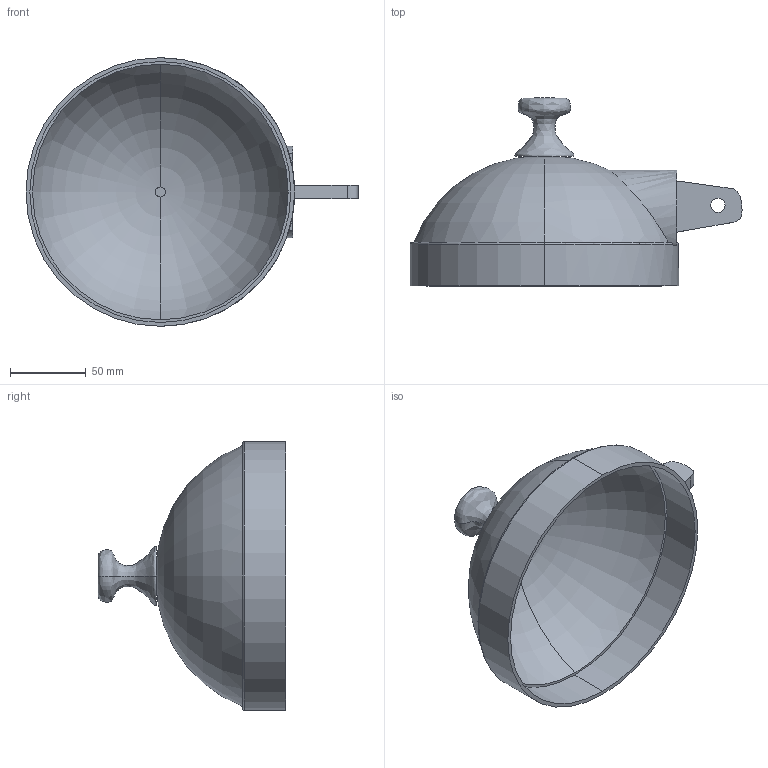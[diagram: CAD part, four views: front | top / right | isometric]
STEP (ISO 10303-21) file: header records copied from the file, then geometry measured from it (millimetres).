
FILE_DESCRIPTION (( 'STEP AP214' ), '1' );
FILE_NAME ('DL-APB-100W-12v.STEP', '2019-06-20T21:30:52', ( '' ), ( '' ), 'SwSTEP 2.0', 'SolidWorks 2016', '' );
FILE_SCHEMA (( 'AUTOMOTIVE_DESIGN' ));
Length unit declared in the file: inch
Products named in the file (1): DL-APB-100W-12v
Bounding box: 219.7 x 124.4 x 177.8 mm (x, y, z)
Volume: 199249.3 mm3; surface area: 112504.3 mm2
Topology: 1 solids, 1 shells, 33 faces, 82 edges, 53 vertices
Faces by surface type: plane 13, torus 8, bspline 6, cylinder 6
Entity records: 1491 total; most frequent: CARTESIAN_POINT 474, ORIENTED_EDGE 160, DIRECTION 157, EDGE_CURVE 80, AXIS2_PLACEMENT_3D 64, VERTEX_POINT 53, EDGE_LOOP 39, CIRCLE 36
